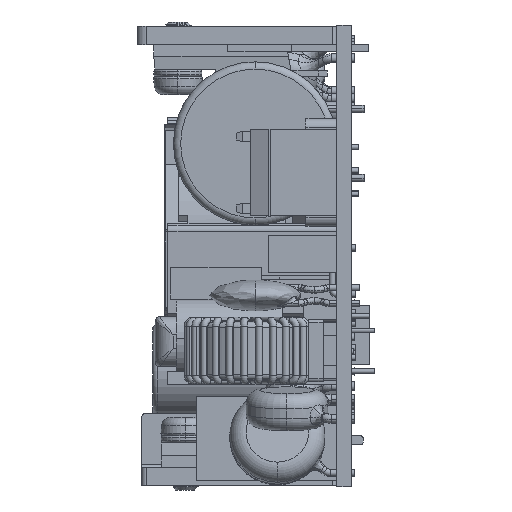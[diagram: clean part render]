
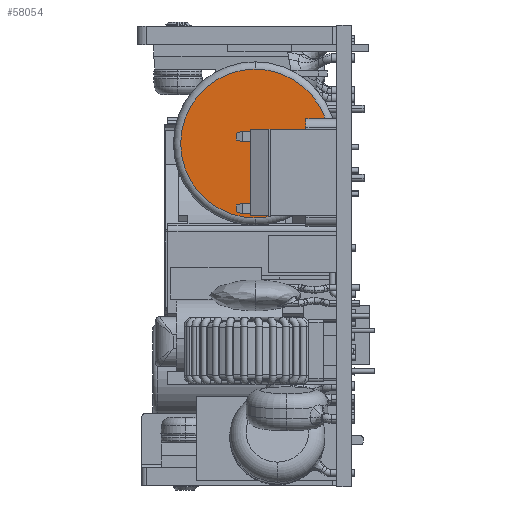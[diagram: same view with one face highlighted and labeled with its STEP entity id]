
A CAD part, left-side view. The second image highlights one B-rep face of the part: STEP entity #58054.
In plain terms, the highlighted planar face has unit normal (-1, 0, 0).
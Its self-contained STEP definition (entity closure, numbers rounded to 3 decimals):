
#1975 = VERTEX_POINT ( 'NONE', #28235 ) ;
#10187 = EDGE_CURVE ( 'NONE', #39875, #1975, #75230, .T. ) ;
#10984 = DIRECTION ( 'NONE',  ( 1., 0., 0. ) ) ;
#13814 = CIRCLE ( 'NONE', #24649, 8.2 ) ;
#13869 = EDGE_LOOP ( 'NONE', ( #39836, #33332 ) ) ;
#16000 = DIRECTION ( 'NONE',  ( 1., 0., 0. ) ) ;
#21836 = DIRECTION ( 'NONE',  ( 0., 0., -1. ) ) ;
#22364 = FACE_OUTER_BOUND ( 'NONE', #13869, .T. ) ;
#24649 = AXIS2_PLACEMENT_3D ( 'NONE', #54229, #80195, #21836 ) ;
#28235 = CARTESIAN_POINT ( 'NONE',  ( -27.3, 9., 4.19 ) ) ;
#33332 = ORIENTED_EDGE ( 'NONE', *, *, #10187, .F. ) ;
#36953 = DIRECTION ( 'NONE',  ( 0., 0., -1. ) ) ;
#38461 = AXIS2_PLACEMENT_3D ( 'NONE', #69343, #10984, #36953 ) ;
#39836 = ORIENTED_EDGE ( 'NONE', *, *, #65012, .F. ) ;
#39875 = VERTEX_POINT ( 'NONE', #49239 ) ;
#41975 = DIRECTION ( 'NONE',  ( 0., 0., -1. ) ) ;
#48337 = PLANE ( 'NONE',  #81070 ) ;
#49239 = CARTESIAN_POINT ( 'NONE',  ( -27.3, 9., 20.59 ) ) ;
#54229 = CARTESIAN_POINT ( 'NONE',  ( -27.3, 9., 12.39 ) ) ;
#58054 = ADVANCED_FACE ( 'NONE', ( #22364 ), #48337, .F. ) ;
#65012 = EDGE_CURVE ( 'NONE', #1975, #39875, #13814, .T. ) ;
#69343 = CARTESIAN_POINT ( 'NONE',  ( -27.3, 9., 12.39 ) ) ;
#74361 = CARTESIAN_POINT ( 'NONE',  ( -27.3, 9., 20.59 ) ) ;
#75230 = CIRCLE ( 'NONE', #38461, 8.2 ) ;
#80195 = DIRECTION ( 'NONE',  ( 1., 0., 0. ) ) ;
#81070 = AXIS2_PLACEMENT_3D ( 'NONE', #74361, #16000, #41975 ) ;
